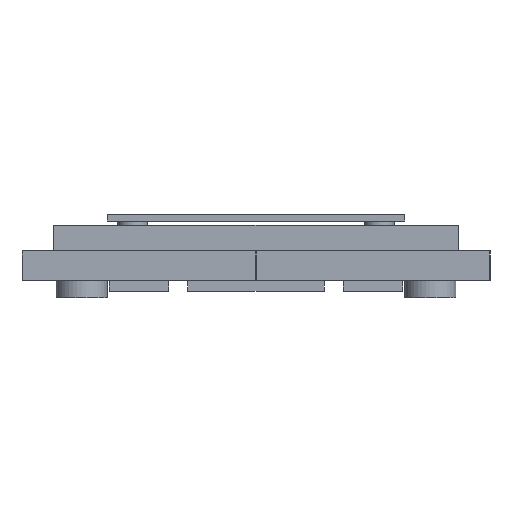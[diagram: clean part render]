
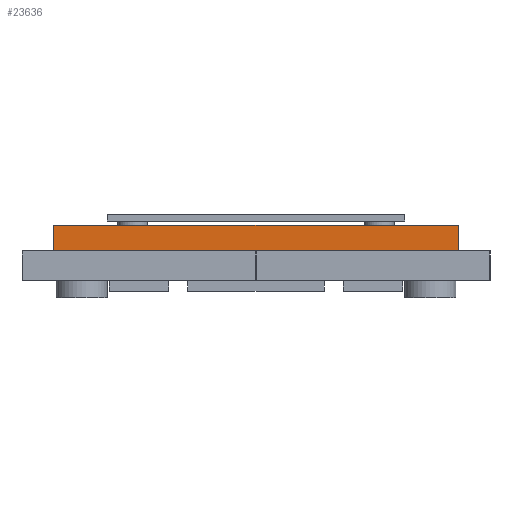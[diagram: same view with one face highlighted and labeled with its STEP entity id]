
A CAD part, left-side view. The second image highlights one B-rep face of the part: STEP entity #23636.
In plain terms, the highlighted planar face has unit normal (-1, 0, 0).
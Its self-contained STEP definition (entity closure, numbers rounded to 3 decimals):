
#23112 = PLANE('',#23113);
#23113 = AXIS2_PLACEMENT_3D('',#23114,#23115,#23116);
#23114 = CARTESIAN_POINT('',(-101.,-95.,14.));
#23115 = DIRECTION('',(0.,1.,0.));
#23116 = DIRECTION('',(0.,0.,1.));
#23137 = VERTEX_POINT('',#23138);
#23138 = CARTESIAN_POINT('',(-119.,-95.,14.));
#23152 = PLANE('',#23153);
#23153 = AXIS2_PLACEMENT_3D('',#23154,#23155,#23156);
#23154 = CARTESIAN_POINT('',(-101.,-95.,14.));
#23155 = DIRECTION('',(0.,0.,1.));
#23156 = DIRECTION('',(0.,1.,0.));
#23164 = EDGE_CURVE('',#23137,#23165,#23167,.T.);
#23165 = VERTEX_POINT('',#23166);
#23166 = CARTESIAN_POINT('',(-119.,-95.,26.));
#23167 = SURFACE_CURVE('',#23168,(#23172,#23179),.PCURVE_S1.);
#23168 = LINE('',#23169,#23170);
#23169 = CARTESIAN_POINT('',(-119.,-95.,14.));
#23170 = VECTOR('',#23171,1.);
#23171 = DIRECTION('',(0.,0.,1.));
#23172 = PCURVE('',#23112,#23173);
#23173 = DEFINITIONAL_REPRESENTATION('',(#23174),#23178);
#23174 = LINE('',#23175,#23176);
#23175 = CARTESIAN_POINT('',(0.,-18.));
#23176 = VECTOR('',#23177,1.);
#23177 = DIRECTION('',(1.,0.));
#23178 = ( GEOMETRIC_REPRESENTATION_CONTEXT(2) 
PARAMETRIC_REPRESENTATION_CONTEXT() REPRESENTATION_CONTEXT('2D SPACE',''
  ) );
#23179 = PCURVE('',#23180,#23185);
#23180 = PLANE('',#23181);
#23181 = AXIS2_PLACEMENT_3D('',#23182,#23183,#23184);
#23182 = CARTESIAN_POINT('',(-119.,-95.,14.));
#23183 = DIRECTION('',(-1.,0.,0.));
#23184 = DIRECTION('',(0.,0.,1.));
#23185 = DEFINITIONAL_REPRESENTATION('',(#23186),#23190);
#23186 = LINE('',#23187,#23188);
#23187 = CARTESIAN_POINT('',(0.,0.));
#23188 = VECTOR('',#23189,1.);
#23189 = DIRECTION('',(1.,0.));
#23190 = ( GEOMETRIC_REPRESENTATION_CONTEXT(2) 
PARAMETRIC_REPRESENTATION_CONTEXT() REPRESENTATION_CONTEXT('2D SPACE',''
  ) );
#23206 = PLANE('',#23207);
#23207 = AXIS2_PLACEMENT_3D('',#23208,#23209,#23210);
#23208 = CARTESIAN_POINT('',(-101.,-95.,26.));
#23209 = DIRECTION('',(0.,0.,1.));
#23210 = DIRECTION('',(0.,1.,0.));
#23282 = PLANE('',#23283);
#23283 = AXIS2_PLACEMENT_3D('',#23284,#23285,#23286);
#23284 = CARTESIAN_POINT('',(-101.,95.,14.));
#23285 = DIRECTION('',(0.,1.,0.));
#23286 = DIRECTION('',(0.,0.,1.));
#23300 = VERTEX_POINT('',#23301);
#23301 = CARTESIAN_POINT('',(-119.,95.,26.));
#23322 = EDGE_CURVE('',#23165,#23300,#23323,.T.);
#23323 = SURFACE_CURVE('',#23324,(#23328,#23335),.PCURVE_S1.);
#23324 = LINE('',#23325,#23326);
#23325 = CARTESIAN_POINT('',(-119.,-95.,26.));
#23326 = VECTOR('',#23327,1.);
#23327 = DIRECTION('',(0.,1.,0.));
#23328 = PCURVE('',#23206,#23329);
#23329 = DEFINITIONAL_REPRESENTATION('',(#23330),#23334);
#23330 = LINE('',#23331,#23332);
#23331 = CARTESIAN_POINT('',(0.,18.));
#23332 = VECTOR('',#23333,1.);
#23333 = DIRECTION('',(1.,0.));
#23334 = ( GEOMETRIC_REPRESENTATION_CONTEXT(2) 
PARAMETRIC_REPRESENTATION_CONTEXT() REPRESENTATION_CONTEXT('2D SPACE',''
  ) );
#23335 = PCURVE('',#23180,#23336);
#23336 = DEFINITIONAL_REPRESENTATION('',(#23337),#23341);
#23337 = LINE('',#23338,#23339);
#23338 = CARTESIAN_POINT('',(12.,0.));
#23339 = VECTOR('',#23340,1.);
#23340 = DIRECTION('',(0.,1.));
#23341 = ( GEOMETRIC_REPRESENTATION_CONTEXT(2) 
PARAMETRIC_REPRESENTATION_CONTEXT() REPRESENTATION_CONTEXT('2D SPACE',''
  ) );
#23636 = ADVANCED_FACE('',(#23637),#23180,.T.);
#23637 = FACE_BOUND('',#23638,.T.);
#23638 = EDGE_LOOP('',(#23639,#23662,#23663,#23664));
#23639 = ORIENTED_EDGE('',*,*,#23640,.F.);
#23640 = EDGE_CURVE('',#23137,#23641,#23643,.T.);
#23641 = VERTEX_POINT('',#23642);
#23642 = CARTESIAN_POINT('',(-119.,95.,14.));
#23643 = SURFACE_CURVE('',#23644,(#23648,#23655),.PCURVE_S1.);
#23644 = LINE('',#23645,#23646);
#23645 = CARTESIAN_POINT('',(-119.,-95.,14.));
#23646 = VECTOR('',#23647,1.);
#23647 = DIRECTION('',(0.,1.,0.));
#23648 = PCURVE('',#23180,#23649);
#23649 = DEFINITIONAL_REPRESENTATION('',(#23650),#23654);
#23650 = LINE('',#23651,#23652);
#23651 = CARTESIAN_POINT('',(0.,0.));
#23652 = VECTOR('',#23653,1.);
#23653 = DIRECTION('',(0.,1.));
#23654 = ( GEOMETRIC_REPRESENTATION_CONTEXT(2) 
PARAMETRIC_REPRESENTATION_CONTEXT() REPRESENTATION_CONTEXT('2D SPACE',''
  ) );
#23655 = PCURVE('',#23152,#23656);
#23656 = DEFINITIONAL_REPRESENTATION('',(#23657),#23661);
#23657 = LINE('',#23658,#23659);
#23658 = CARTESIAN_POINT('',(0.,18.));
#23659 = VECTOR('',#23660,1.);
#23660 = DIRECTION('',(1.,0.));
#23661 = ( GEOMETRIC_REPRESENTATION_CONTEXT(2) 
PARAMETRIC_REPRESENTATION_CONTEXT() REPRESENTATION_CONTEXT('2D SPACE',''
  ) );
#23662 = ORIENTED_EDGE('',*,*,#23164,.T.);
#23663 = ORIENTED_EDGE('',*,*,#23322,.T.);
#23664 = ORIENTED_EDGE('',*,*,#23665,.F.);
#23665 = EDGE_CURVE('',#23641,#23300,#23666,.T.);
#23666 = SURFACE_CURVE('',#23667,(#23671,#23678),.PCURVE_S1.);
#23667 = LINE('',#23668,#23669);
#23668 = CARTESIAN_POINT('',(-119.,95.,14.));
#23669 = VECTOR('',#23670,1.);
#23670 = DIRECTION('',(0.,0.,1.));
#23671 = PCURVE('',#23180,#23672);
#23672 = DEFINITIONAL_REPRESENTATION('',(#23673),#23677);
#23673 = LINE('',#23674,#23675);
#23674 = CARTESIAN_POINT('',(0.,190.));
#23675 = VECTOR('',#23676,1.);
#23676 = DIRECTION('',(1.,0.));
#23677 = ( GEOMETRIC_REPRESENTATION_CONTEXT(2) 
PARAMETRIC_REPRESENTATION_CONTEXT() REPRESENTATION_CONTEXT('2D SPACE',''
  ) );
#23678 = PCURVE('',#23282,#23679);
#23679 = DEFINITIONAL_REPRESENTATION('',(#23680),#23684);
#23680 = LINE('',#23681,#23682);
#23681 = CARTESIAN_POINT('',(0.,-18.));
#23682 = VECTOR('',#23683,1.);
#23683 = DIRECTION('',(1.,0.));
#23684 = ( GEOMETRIC_REPRESENTATION_CONTEXT(2) 
PARAMETRIC_REPRESENTATION_CONTEXT() REPRESENTATION_CONTEXT('2D SPACE',''
  ) );
